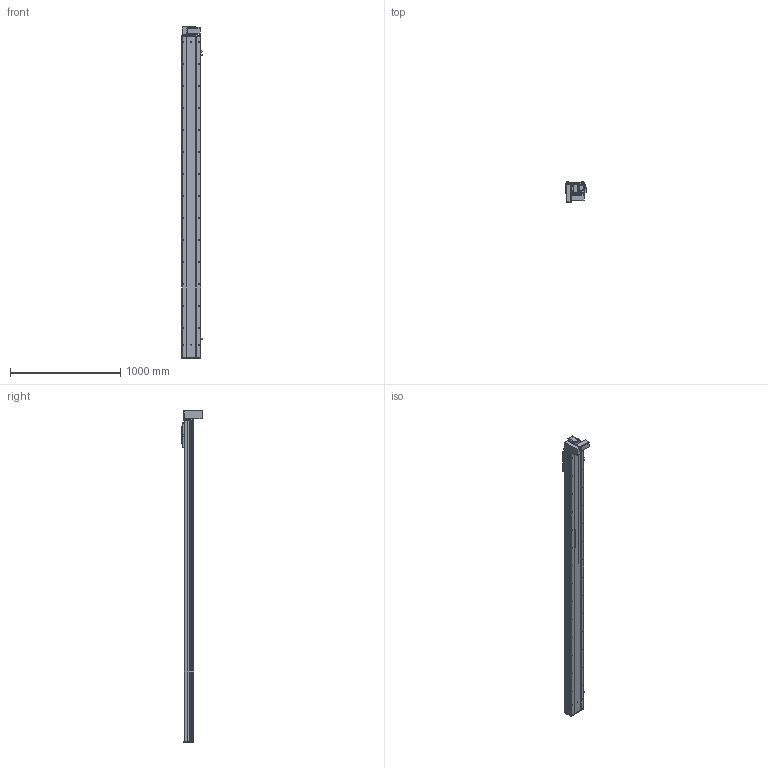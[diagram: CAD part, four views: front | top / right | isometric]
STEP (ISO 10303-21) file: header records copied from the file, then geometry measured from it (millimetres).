
FILE_DESCRIPTION (( 'STEP AP203' ), '1' );
FILE_NAME ('Y170CB-D105-S2600-BM-P400W.STEP', '2020-02-20T07:45:53', ( '微软用户' ), ( '微软中国' ), 'SwSTEP 2.0', 'SolidWorks 2017', '' );
FILE_SCHEMA (( 'CONFIG_CONTROL_DESIGN' ));
Length unit declared in the file: millimetre
Products named in the file (18): 17B-耜蚾蟀諉啣----; 70C--詩湍揤踡え-; 00B-俋欶BM--163; 70CB--耜裔; 70B喘謫眊----; 70C-雄赽釱-奻-; B-源倛裔啣; Y170CB-D105-S2600-BM-P400W; 0C--雄赽釱俋欶-170; 0B-萇儂楊擘啣; 70CB-詩湍--; san松下电机400不带刹车----; Y100-135俋离換覜ん--; 70CB-掛极-; Y170CB-陔俋离換覜結え---; --70CB --喘謫眊楊擘啣-; Y1埴倛裔; 70CB-耜裔啣-
Assembly tree (21 placements, depth 2):
  Y170CB-D105-S2600-BM-P400W
    B-源倛裔啣
    0B-萇儂楊擘啣
    san松下电机400不带刹车----
    70CB-掛极-
    --70CB --喘謫眊楊擘啣-
    70CB-耜裔啣-  x2
    70C--詩湍揤踡え-  x2
    70CB--耜裔
    70C-雄赽釱-奻-
    0C--雄赽釱俋欶-170
    70CB-詩湍--
    Y100-135俋离換覜ん--  x3
    Y170CB-陔俋离換覜結え---
    Y1埴倛裔
    17B-耜蚾蟀諉啣----
    00B-俋欶BM--163
    70B喘謫眊----
Bounding box: 183.5 x 184 x 3016 mm (x, y, z)
Volume: 12839308.8 mm3; surface area: 4637565.8 mm2
Topology: 21 solids, 21 shells, 1071 faces, 2885 edges, 1914 vertices
Faces by surface type: cylinder 585, plane 462, cone 24
Entity records: 34372 total; most frequent: CARTESIAN_POINT 6336, DIRECTION 5594, ORIENTED_EDGE 5252, EDGE_CURVE 2626, AXIS2_PLACEMENT_3D 2068, VERTEX_POINT 1744, VECTOR 1458, LINE 1458
